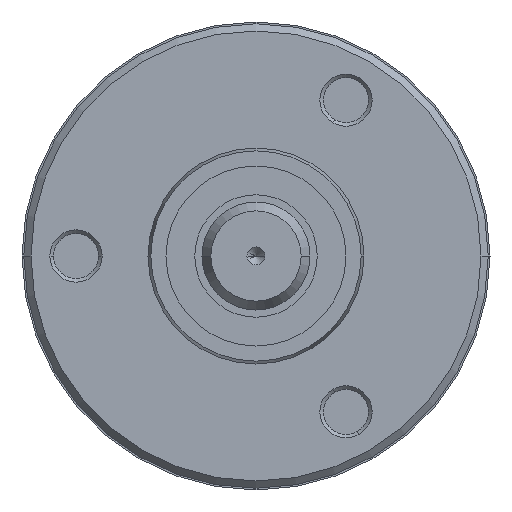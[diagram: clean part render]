
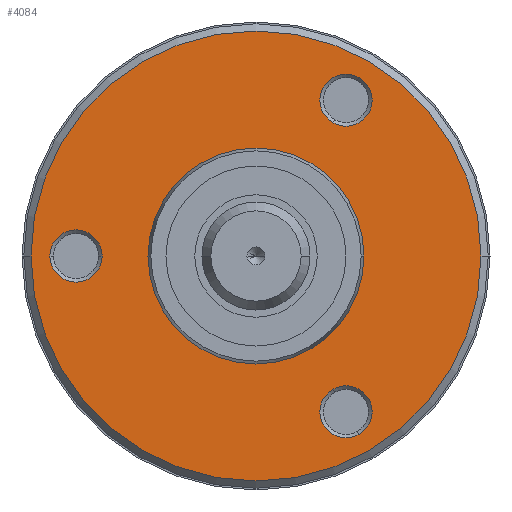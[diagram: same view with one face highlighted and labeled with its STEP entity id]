
A CAD part, left-side view. The second image highlights one B-rep face of the part: STEP entity #4084.
In plain terms, the highlighted planar face has unit normal (-1, 0, 0).
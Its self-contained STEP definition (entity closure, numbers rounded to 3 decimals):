
#662=CARTESIAN_POINT('',(0.,0.,0.));
#663=DIRECTION('',(-1.,0.,0.));
#664=DIRECTION('',(0.,1.,0.));
#665=AXIS2_PLACEMENT_3D('',#662,#663,#664);
#670=CARTESIAN_POINT('',(0.,0.,0.));
#671=DIRECTION('',(-1.,0.,0.));
#672=DIRECTION('',(0.,-1.,0.));
#673=AXIS2_PLACEMENT_3D('',#670,#671,#672);
#678=CARTESIAN_POINT('',(0.,5.,0.));
#679=DIRECTION('',(-1.,0.,0.));
#680=DIRECTION('',(0.,1.,0.));
#681=AXIS2_PLACEMENT_3D('',#678,#679,#680);
#686=CARTESIAN_POINT('',(0.,5.,0.));
#687=DIRECTION('',(-1.,0.,0.));
#688=DIRECTION('',(0.,-1.,0.));
#689=AXIS2_PLACEMENT_3D('',#686,#687,#688);
#694=CARTESIAN_POINT('',(0.,-2.5,4.33));
#695=DIRECTION('',(-1.,0.,0.));
#696=DIRECTION('',(0.,-0.5,0.866));
#697=AXIS2_PLACEMENT_3D('',#694,#695,#696);
#702=CARTESIAN_POINT('',(0.,-2.5,4.33));
#703=DIRECTION('',(-1.,0.,0.));
#704=DIRECTION('',(0.,0.5,-0.866));
#705=AXIS2_PLACEMENT_3D('',#702,#703,#704);
#710=CARTESIAN_POINT('',(0.,-2.5,-4.33));
#711=DIRECTION('',(-1.,0.,0.));
#712=DIRECTION('',(0.,-0.5,-0.866));
#713=AXIS2_PLACEMENT_3D('',#710,#711,#712);
#718=CARTESIAN_POINT('',(0.,-2.5,-4.33));
#719=DIRECTION('',(-1.,0.,0.));
#720=DIRECTION('',(0.,0.5,0.866));
#721=AXIS2_PLACEMENT_3D('',#718,#719,#720);
#741=CARTESIAN_POINT('',(0.,0.,0.));
#742=DIRECTION('',(-1.,0.,0.));
#743=DIRECTION('',(0.,1.,0.));
#744=AXIS2_PLACEMENT_3D('',#741,#742,#743);
#810=CARTESIAN_POINT('',(0.,0.,0.));
#811=DIRECTION('',(1.,0.,0.));
#812=DIRECTION('',(0.,1.,0.));
#813=AXIS2_PLACEMENT_3D('',#810,#811,#812);
#3104=CARTESIAN_POINT('',(0.,3.,0.));
#3105=CARTESIAN_POINT('',(0.,-3.,0.));
#3106=VERTEX_POINT('',#3104);
#3107=VERTEX_POINT('',#3105);
#3116=CARTESIAN_POINT('',(0.,5.725,0.));
#3117=CARTESIAN_POINT('',(0.,4.275,0.));
#3118=VERTEX_POINT('',#3116);
#3119=VERTEX_POINT('',#3117);
#3124=CARTESIAN_POINT('',(0.,-2.863,4.958));
#3125=CARTESIAN_POINT('',(0.,-2.138,3.702));
#3126=VERTEX_POINT('',#3124);
#3127=VERTEX_POINT('',#3125);
#3132=CARTESIAN_POINT('',(0.,-2.863,-4.958));
#3133=CARTESIAN_POINT('',(0.,-2.138,-3.702));
#3134=VERTEX_POINT('',#3132);
#3135=VERTEX_POINT('',#3133);
#3144=CARTESIAN_POINT('',(0.,6.25,0.));
#3145=CARTESIAN_POINT('',(0.,-6.25,0.));
#3146=VERTEX_POINT('',#3144);
#3147=VERTEX_POINT('',#3145);
#4050=CARTESIAN_POINT('',(0.,0.,0.));
#4051=DIRECTION('',(-1.,0.,0.));
#4052=DIRECTION('',(0.,1.,0.));
#4053=AXIS2_PLACEMENT_3D('',#4050,#4051,#4052);
#4054=PLANE('',#4053);
#4056=ORIENTED_EDGE('',*,*,#4055,.F.);
#4057=ORIENTED_EDGE('',*,*,#4040,.F.);
#4058=EDGE_LOOP('',(#4056,#4057));
#4059=FACE_OUTER_BOUND('',#4058,.F.);
#4061=ORIENTED_EDGE('',*,*,#4060,.T.);
#4063=ORIENTED_EDGE('',*,*,#4062,.F.);
#4064=EDGE_LOOP('',(#4061,#4063));
#4065=FACE_BOUND('',#4064,.F.);
#4067=ORIENTED_EDGE('',*,*,#4066,.T.);
#4069=ORIENTED_EDGE('',*,*,#4068,.T.);
#4070=EDGE_LOOP('',(#4067,#4069));
#4071=FACE_BOUND('',#4070,.F.);
#4073=ORIENTED_EDGE('',*,*,#4072,.T.);
#4075=ORIENTED_EDGE('',*,*,#4074,.T.);
#4076=EDGE_LOOP('',(#4073,#4075));
#4077=FACE_BOUND('',#4076,.F.);
#4079=ORIENTED_EDGE('',*,*,#4078,.T.);
#4081=ORIENTED_EDGE('',*,*,#4080,.T.);
#4082=EDGE_LOOP('',(#4079,#4081));
#4083=FACE_BOUND('',#4082,.F.);
#4084=ADVANCED_FACE('',(#4059,#4065,#4071,#4077,#4083),#4054,.T.);
#666=CIRCLE('',#665,6.25);
#674=CIRCLE('',#673,6.25);
#682=CIRCLE('',#681,0.725);
#690=CIRCLE('',#689,0.725);
#698=CIRCLE('',#697,0.725);
#706=CIRCLE('',#705,0.725);
#714=CIRCLE('',#713,0.725);
#722=CIRCLE('',#721,0.725);
#745=CIRCLE('',#744,3.);
#814=CIRCLE('',#813,3.);
#4040=EDGE_CURVE('',#3147,#3146,#674,.T.);
#4055=EDGE_CURVE('',#3146,#3147,#666,.T.);
#4060=EDGE_CURVE('',#3106,#3107,#745,.T.);
#4062=EDGE_CURVE('',#3106,#3107,#814,.T.);
#4066=EDGE_CURVE('',#3118,#3119,#682,.T.);
#4068=EDGE_CURVE('',#3119,#3118,#690,.T.);
#4072=EDGE_CURVE('',#3126,#3127,#698,.T.);
#4074=EDGE_CURVE('',#3127,#3126,#706,.T.);
#4078=EDGE_CURVE('',#3134,#3135,#714,.T.);
#4080=EDGE_CURVE('',#3135,#3134,#722,.T.);
